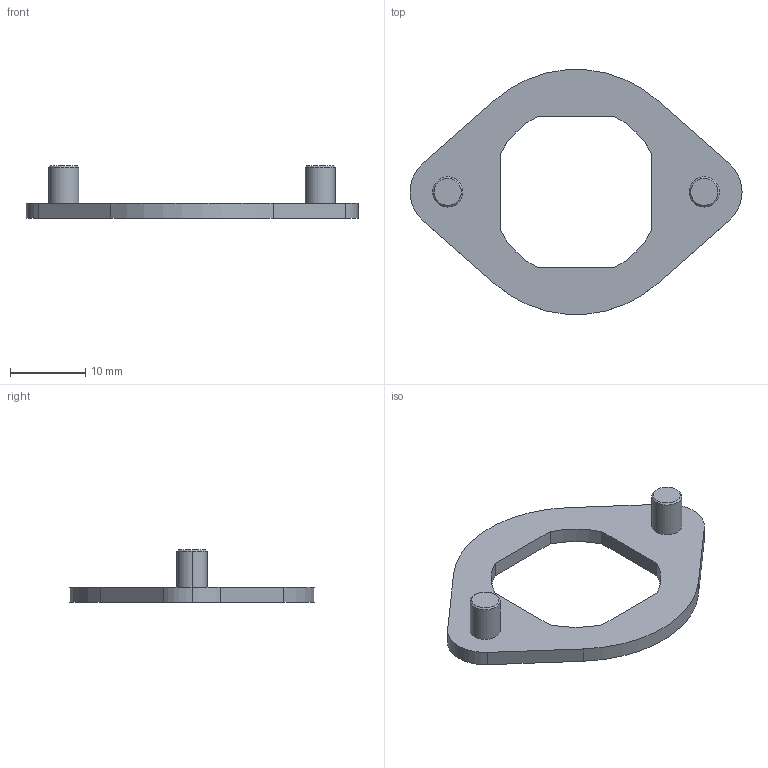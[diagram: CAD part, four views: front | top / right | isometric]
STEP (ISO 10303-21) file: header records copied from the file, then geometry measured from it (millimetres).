
FILE_DESCRIPTION (( 'STEP AP203' ), '1' );
FILE_NAME ('4-17.1.STEP', '2012-06-28T06:54:01', ( 'Minx' ), ( 'Lidokov' ), 'SwSTEP 2.0', 'SolidWorks 2009', '' );
FILE_SCHEMA (( 'CONFIG_CONTROL_DESIGN' ));
Length unit declared in the file: millimetre
Products named in the file (1): 4-17.1
Bounding box: 44 x 32.4 x 7 mm (x, y, z)
Volume: 1331.4 mm3; surface area: 1696.9 mm2
Topology: 1 solids, 1 shells, 29 faces, 71 edges, 46 vertices
Faces by surface type: cylinder 13, plane 12, cone 4
Entity records: 944 total; most frequent: DIRECTION 161, CARTESIAN_POINT 147, ORIENTED_EDGE 142, EDGE_CURVE 71, AXIS2_PLACEMENT_3D 60, VERTEX_POINT 46, VECTOR 41, LINE 41
